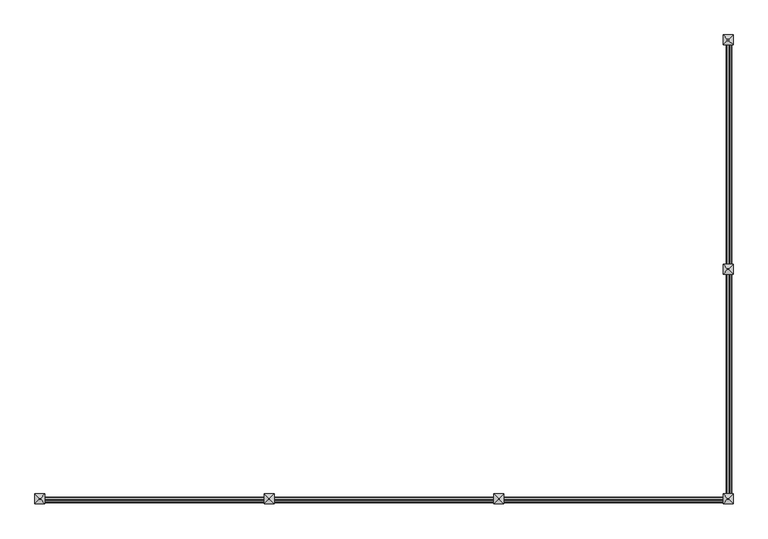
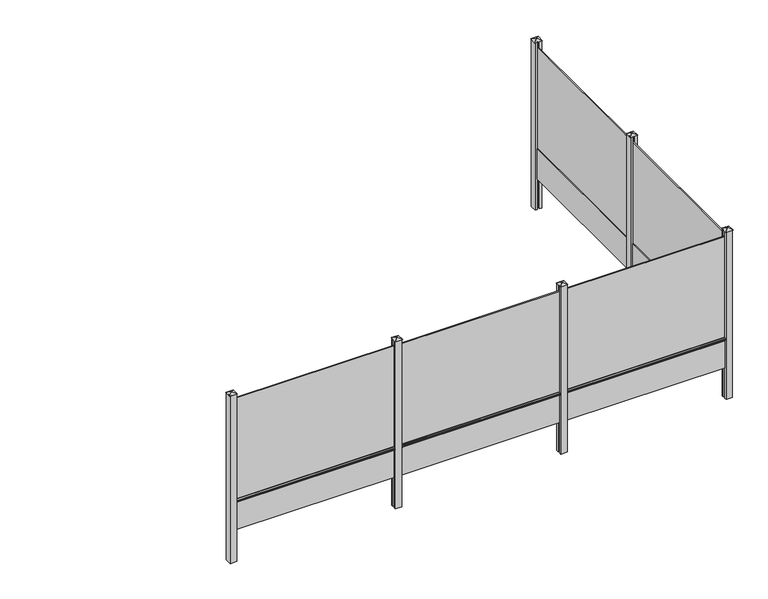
"""IFC4 building model written with IfcOpenShell, lengths in millimetres: railing geometry, Mehat - Railing - Plaque de Soubassement - Classique pour clôture rigide - 251.5x50x3.5 cm."""

from ifc_helpers import new_model, si_unit, point, frame, frame_2d, origin, origin_with_axes, place, context, project, spatial, polyline, circle_curve, trimmed, segment, composite_curve, outline, extrude, faceted_brep, source, transform, mapped, element, save


def railing_9e67e6d5(model_context):
    return source(origin(), model_context, "Body", "SolidModel", [
        extrude(outline(polyline([(11896.2516516, -11112.4943936), (11879.2516516, -11112.4943936), (11879.2516516, -8597.4943936), (11896.2516516, -8597.4943936), (11896.2516516, -11112.4943936)])), frame((0.0, 0.0, 500.0), z_axis=(0.0, 0.0, 1.0), x_axis=(1.0, 0.0, 0.0)), (0.0, 0.0, 1.0), 1650.0),
        extrude(outline(polyline([(11905.2516516, -11112.4943936), (11870.2516516, -11112.4943936), (11870.2516516, -8597.4943936), (11905.2516516, -8597.4943936), (11905.2516516, -11112.4943936)])), origin_with_axes(), (0.0, 0.0, 1.0), 500.0),
        extrude(outline(composite_curve([segment(polyline([(460.0, 11905.2516516), (467.1937129, 11926.8327905)]), True, "CONTINUOUS"), segment(trimmed(circle_curve(frame_2d((471.9371294, 11925.2516516)), 5.0), [point((467.1937129, 11926.8327905))], [point((471.9371294, 11930.2516516))], False, "CARTESIAN"), True, "CONTINUOUS"), segment(polyline([(471.9371294, 11930.2516516), (488.0628706, 11930.2516516)]), True, "CONTINUOUS"), segment(trimmed(circle_curve(frame_2d((488.0628706, 11925.2516516)), 5.0), [point((488.0628706, 11930.2516516))], [point((492.8062871, 11926.8327905))], False, "CARTESIAN"), True, "CONTINUOUS"), segment(polyline([(492.8062871, 11926.8327905), (500.0, 11905.2516516), (460.0, 11905.2516516)]), True, "CONTINUOUS")], self_intersect=False)), frame((0.0, -11087.4943936, 0.0), z_axis=(0.0, 1.0, 0.0), x_axis=(0.0, 0.0, 1.0)), (0.0, 0.0, 1.0), 2465.0),
        extrude(outline(polyline([(11937.7516516, -11187.4943936), (11905.2516516, -11187.4943936), (11905.2516516, -11162.4943936), (11870.2516516, -11162.4943936), (11870.2516516, -11187.4943936), (11837.7516516, -11187.4943936), (11837.7516516, -11087.4943936), (11870.2516516, -11087.4943936), (11870.2516516, -11112.4943936), (11905.2516516, -11112.4943936), (11905.2516516, -11087.4943936), (11937.7516516, -11087.4943936), (11937.7516516, -11187.4943936)])), frame((0.0, 0.0, -500.0), z_axis=(0.0, 0.0, 1.0), x_axis=(1.0, 0.0, 0.0)), (0.0, 0.0, 1.0), 2750.0),
        faceted_brep([(11881.3471055, -11131.1443936, 2275.4), (11881.3471055, -11143.8443936, 2275.4), (11894.0471055, -11143.8443936, 2275.4), (11894.0471055, -11131.1443936, 2275.4), (11831.4016516, -11081.1443936, 2250.0), (11944.1016516, -11081.1443936, 2250.0), (11944.1016516, -11193.8443936, 2250.0), (11831.4016516, -11193.8443936, 2250.0)], [[[0, 1, 2, 3]], [[4, 5, 6, 7]], [[4, 0, 3, 5]], [[5, 3, 2, 6]], [[6, 2, 1, 7]], [[7, 1, 0, 4]]]),
        extrude(outline(polyline([(11896.2516516, -13677.4943936), (11879.2516516, -13677.4943936), (11879.2516516, -11162.4943936), (11896.2516516, -11162.4943936), (11896.2516516, -13677.4943936)])), frame((0.0, 0.0, 500.0), z_axis=(0.0, 0.0, 1.0), x_axis=(1.0, 0.0, 0.0)), (0.0, 0.0, 1.0), 1650.0),
        extrude(outline(polyline([(11905.2516516, -13677.4943936), (11870.2516516, -13677.4943936), (11870.2516516, -11162.4943936), (11905.2516516, -11162.4943936), (11905.2516516, -13677.4943936)])), origin_with_axes(), (0.0, 0.0, 1.0), 500.0),
        extrude(outline(composite_curve([segment(polyline([(460.0, 11905.2516516), (467.1937129, 11926.8327905)]), True, "CONTINUOUS"), segment(trimmed(circle_curve(frame_2d((471.9371294, 11925.2516516)), 5.0), [point((467.1937129, 11926.8327905))], [point((471.9371294, 11930.2516516))], False, "CARTESIAN"), True, "CONTINUOUS"), segment(polyline([(471.9371294, 11930.2516516), (488.0628706, 11930.2516516)]), True, "CONTINUOUS"), segment(trimmed(circle_curve(frame_2d((488.0628706, 11925.2516516)), 5.0), [point((488.0628706, 11930.2516516))], [point((492.8062871, 11926.8327905))], False, "CARTESIAN"), True, "CONTINUOUS"), segment(polyline([(492.8062871, 11926.8327905), (500.0, 11905.2516516), (460.0, 11905.2516516)]), True, "CONTINUOUS")], self_intersect=False)), frame((0.0, -13652.4943936, 0.0), z_axis=(0.0, 1.0, 0.0), x_axis=(0.0, 0.0, 1.0)), (0.0, 0.0, 1.0), 2465.0),
        extrude(outline(polyline([(9347.7516516, -13710.9943936), (9347.7516516, -13693.9943936), (11862.7516516, -13693.9943936), (11862.7516516, -13710.9943936), (9347.7516516, -13710.9943936)])), frame((0.0, 0.0, 500.0), z_axis=(0.0, 0.0, 1.0), x_axis=(1.0, 0.0, 0.0)), (0.0, 0.0, 1.0), 1650.0),
        extrude(outline(polyline([(9347.7516516, -13719.9943936), (9347.7516516, -13684.9943936), (11862.7516516, -13684.9943936), (11862.7516516, -13719.9943936), (9347.7516516, -13719.9943936)])), origin_with_axes(), (0.0, 0.0, 1.0), 500.0),
        extrude(outline(composite_curve([segment(polyline([(-13719.9943936, 460.0), (-13741.5755325, 467.1937129)]), True, "CONTINUOUS"), segment(trimmed(circle_curve(frame_2d((-13739.9943936, 471.9371294)), 5.0), [point((-13741.5755325, 467.1937129))], [point((-13744.9943936, 471.9371294))], False, "CARTESIAN"), True, "CONTINUOUS"), segment(polyline([(-13744.9943936, 471.9371294), (-13744.9943936, 488.0628706)]), True, "CONTINUOUS"), segment(trimmed(circle_curve(frame_2d((-13739.9943936, 488.0628706)), 5.0), [point((-13744.9943936, 488.0628706))], [point((-13741.5755325, 492.8062871))], False, "CARTESIAN"), True, "CONTINUOUS"), segment(polyline([(-13741.5755325, 492.8062871), (-13719.9943936, 500.0), (-13719.9943936, 460.0)]), True, "CONTINUOUS")], self_intersect=False)), frame((9372.7516516, 0.0, 0.0), z_axis=(1.0, 0.0, 0.0), x_axis=(0.0, 1.0, 0.0)), (0.0, 0.0, 1.0), 2465.0),
        extrude(outline(polyline([(9272.7516516, -13752.4943936), (9272.7516516, -13719.9943936), (9297.7516516, -13719.9943936), (9297.7516516, -13684.9943936), (9272.7516516, -13684.9943936), (9272.7516516, -13652.4943936), (9372.7516516, -13652.4943936), (9372.7516516, -13684.9943936), (9347.7516516, -13684.9943936), (9347.7516516, -13719.9943936), (9372.7516516, -13719.9943936), (9372.7516516, -13752.4943936), (9272.7516516, -13752.4943936)])), frame((0.0, 0.0, -500.0), z_axis=(0.0, 0.0, 1.0), x_axis=(1.0, 0.0, 0.0)), (0.0, 0.0, 1.0), 2750.0),
        faceted_brep([(9329.1016516, -13696.0898475, 2275.4), (9316.4016516, -13696.0898475, 2275.4), (9316.4016516, -13708.7898475, 2275.4), (9329.1016516, -13708.7898475, 2275.4), (9379.1016516, -13646.1443936, 2250.0), (9379.1016516, -13758.8443936, 2250.0), (9266.4016516, -13758.8443936, 2250.0), (9266.4016516, -13646.1443936, 2250.0)], [[[0, 1, 2, 3]], [[4, 5, 6, 7]], [[4, 0, 3, 5]], [[5, 3, 2, 6]], [[6, 2, 1, 7]], [[7, 1, 0, 4]]]),
        extrude(outline(polyline([(6782.7516516, -13710.9943936), (6782.7516516, -13693.9943936), (9297.7516516, -13693.9943936), (9297.7516516, -13710.9943936), (6782.7516516, -13710.9943936)])), frame((0.0, 0.0, 500.0), z_axis=(0.0, 0.0, 1.0), x_axis=(1.0, 0.0, 0.0)), (0.0, 0.0, 1.0), 1650.0),
        extrude(outline(polyline([(6782.7516516, -13719.9943936), (6782.7516516, -13684.9943936), (9297.7516516, -13684.9943936), (9297.7516516, -13719.9943936), (6782.7516516, -13719.9943936)])), origin_with_axes(), (0.0, 0.0, 1.0), 500.0),
        extrude(outline(composite_curve([segment(polyline([(-13719.9943936, 460.0), (-13741.5755325, 467.1937129)]), True, "CONTINUOUS"), segment(trimmed(circle_curve(frame_2d((-13739.9943936, 471.9371294)), 5.0), [point((-13741.5755325, 467.1937129))], [point((-13744.9943936, 471.9371294))], False, "CARTESIAN"), True, "CONTINUOUS"), segment(polyline([(-13744.9943936, 471.9371294), (-13744.9943936, 488.0628706)]), True, "CONTINUOUS"), segment(trimmed(circle_curve(frame_2d((-13739.9943936, 488.0628706)), 5.0), [point((-13744.9943936, 488.0628706))], [point((-13741.5755325, 492.8062871))], False, "CARTESIAN"), True, "CONTINUOUS"), segment(polyline([(-13741.5755325, 492.8062871), (-13719.9943936, 500.0), (-13719.9943936, 460.0)]), True, "CONTINUOUS")], self_intersect=False)), frame((6807.7516516, 0.0, 0.0), z_axis=(1.0, 0.0, 0.0), x_axis=(0.0, 1.0, 0.0)), (0.0, 0.0, 1.0), 2465.0),
        extrude(outline(polyline([(6707.7516516, -13752.4943936), (6707.7516516, -13719.9943936), (6732.7516516, -13719.9943936), (6732.7516516, -13684.9943936), (6707.7516516, -13684.9943936), (6707.7516516, -13652.4943936), (6807.7516516, -13652.4943936), (6807.7516516, -13684.9943936), (6782.7516516, -13684.9943936), (6782.7516516, -13719.9943936), (6807.7516516, -13719.9943936), (6807.7516516, -13752.4943936), (6707.7516516, -13752.4943936)])), frame((0.0, 0.0, -500.0), z_axis=(0.0, 0.0, 1.0), x_axis=(1.0, 0.0, 0.0)), (0.0, 0.0, 1.0), 2750.0),
        faceted_brep([(6764.1016516, -13696.0898475, 2275.4), (6751.4016516, -13696.0898475, 2275.4), (6751.4016516, -13708.7898475, 2275.4), (6764.1016516, -13708.7898475, 2275.4), (6814.1016516, -13646.1443936, 2250.0), (6814.1016516, -13758.8443936, 2250.0), (6701.4016516, -13758.8443936, 2250.0), (6701.4016516, -13646.1443936, 2250.0)], [[[0, 1, 2, 3]], [[4, 5, 6, 7]], [[4, 0, 3, 5]], [[5, 3, 2, 6]], [[6, 2, 1, 7]], [[7, 1, 0, 4]]]),
        extrude(outline(polyline([(4217.7516516, -13710.9943936), (4217.7516516, -13693.9943936), (6732.7516516, -13693.9943936), (6732.7516516, -13710.9943936), (4217.7516516, -13710.9943936)])), frame((0.0, 0.0, 500.0), z_axis=(0.0, 0.0, 1.0), x_axis=(1.0, 0.0, 0.0)), (0.0, 0.0, 1.0), 1650.0),
        extrude(outline(polyline([(4217.7516516, -13719.9943936), (4217.7516516, -13684.9943936), (6732.7516516, -13684.9943936), (6732.7516516, -13719.9943936), (4217.7516516, -13719.9943936)])), origin_with_axes(), (0.0, 0.0, 1.0), 500.0),
        extrude(outline(composite_curve([segment(polyline([(-13719.9943936, 460.0), (-13741.5755325, 467.1937129)]), True, "CONTINUOUS"), segment(trimmed(circle_curve(frame_2d((-13739.9943936, 471.9371294)), 5.0), [point((-13741.5755325, 467.1937129))], [point((-13744.9943936, 471.9371294))], False, "CARTESIAN"), True, "CONTINUOUS"), segment(polyline([(-13744.9943936, 471.9371294), (-13744.9943936, 488.0628706)]), True, "CONTINUOUS"), segment(trimmed(circle_curve(frame_2d((-13739.9943936, 488.0628706)), 5.0), [point((-13744.9943936, 488.0628706))], [point((-13741.5755325, 492.8062871))], False, "CARTESIAN"), True, "CONTINUOUS"), segment(polyline([(-13741.5755325, 492.8062871), (-13719.9943936, 500.0), (-13719.9943936, 460.0)]), True, "CONTINUOUS")], self_intersect=False)), frame((4242.7516516, 0.0, 0.0), z_axis=(1.0, 0.0, 0.0), x_axis=(0.0, 1.0, 0.0)), (0.0, 0.0, 1.0), 2465.0),
        extrude(outline(polyline([(11837.7516516, -13752.4943936), (11837.7516516, -13719.9943936), (11862.7516516, -13719.9943936), (11862.7516516, -13684.9943936), (11837.7516516, -13684.9943936), (11837.7516516, -13652.4943936), (11870.2516516, -13652.4943936), (11870.2516516, -13677.4943936), (11905.2516516, -13677.4943936), (11905.2516516, -13652.4943936), (11937.7516516, -13652.4943936), (11937.7516516, -13752.4943936), (11837.7516516, -13752.4943936)])), frame((0.0, 0.0, -500.0), z_axis=(0.0, 0.0, 1.0), x_axis=(1.0, 0.0, 0.0)), (0.0, 0.0, 1.0), 2750.0),
        faceted_brep([(11894.1016516, -13696.0898475, 2275.4), (11881.4016516, -13696.0898475, 2275.4), (11881.4016516, -13708.7898475, 2275.4), (11894.1016516, -13708.7898475, 2275.4), (11944.1016516, -13646.1443936, 2250.0), (11944.1016516, -13758.8443936, 2250.0), (11831.4016516, -13758.8443936, 2250.0), (11831.4016516, -13646.1443936, 2250.0)], [[[0, 1, 2, 3]], [[4, 5, 6, 7]], [[4, 0, 3, 5]], [[5, 3, 2, 6]], [[6, 2, 1, 7]], [[7, 1, 0, 4]]]),
        extrude(outline(polyline([(11937.7516516, -8622.4943936), (11905.2516516, -8622.4943936), (11905.2516516, -8597.4943936), (11870.2516516, -8597.4943936), (11870.2516516, -8622.4943936), (11837.7516516, -8622.4943936), (11837.7516516, -8522.4943936), (11937.7516516, -8522.4943936), (11937.7516516, -8622.4943936)])), frame((0.0, 0.0, -500.0), z_axis=(0.0, 0.0, 1.0), x_axis=(1.0, 0.0, 0.0)), (0.0, 0.0, 1.0), 2750.0),
        faceted_brep([(11881.3471055, -8566.1443936, 2275.4), (11881.3471055, -8578.8443936, 2275.4), (11894.0471055, -8578.8443936, 2275.4), (11894.0471055, -8566.1443936, 2275.4), (11831.4016516, -8516.1443936, 2250.0), (11944.1016516, -8516.1443936, 2250.0), (11944.1016516, -8628.8443936, 2250.0), (11831.4016516, -8628.8443936, 2250.0)], [[[0, 1, 2, 3]], [[4, 5, 6, 7]], [[4, 0, 3, 5]], [[5, 3, 2, 6]], [[6, 2, 1, 7]], [[7, 1, 0, 4]]]),
        extrude(outline(polyline([(4142.7516516, -13752.4943936), (4142.7516516, -13652.4943936), (4242.7516516, -13652.4943936), (4242.7516516, -13684.9943936), (4217.7516516, -13684.9943936), (4217.7516516, -13719.9943936), (4242.7516516, -13719.9943936), (4242.7516516, -13752.4943936), (4142.7516516, -13752.4943936)])), frame((0.0, 0.0, -500.0), z_axis=(0.0, 0.0, 1.0), x_axis=(1.0, 0.0, 0.0)), (0.0, 0.0, 1.0), 2750.0),
        faceted_brep([(4199.1016516, -13696.0898475, 2275.4), (4186.4016516, -13696.0898475, 2275.4), (4186.4016516, -13708.7898475, 2275.4), (4199.1016516, -13708.7898475, 2275.4), (4249.1016516, -13646.1443936, 2250.0), (4249.1016516, -13758.8443936, 2250.0), (4136.4016516, -13758.8443936, 2250.0), (4136.4016516, -13646.1443936, 2250.0)], [[[0, 1, 2, 3]], [[4, 5, 6, 7]], [[4, 0, 3, 5]], [[5, 3, 2, 6]], [[6, 2, 1, 7]], [[7, 1, 0, 4]]]),
    ])


if __name__ == "__main__":
    model = new_model("IFC4")
    model_context = context("Model", 3, world=origin())
    ifc_project = project(units=[si_unit("LENGTHUNIT", "METRE", prefix="MILLI")], contexts=[model_context])
    site = spatial("IfcSite", under=ifc_project)
    building = spatial("IfcBuilding", under=site)
    placement = place(None, origin())
    railing_shape = railing_9e67e6d5(model_context)
    element("IfcRailing", 1, ObjectType="Mehat - Railing - Plaque de Soubassement - Classique pour clôture rigide - 251.5x50x3.5 cm", at=placement, inside=building, context=model_context, shape_type="MappedRepresentation", body=[
        mapped(railing_shape, transform((0.0, 0.0, 0.0), x_axis=(1.0, 0.0, 0.0), y_axis=(0.0, 1.0, 0.0), z_axis=(0.0, 0.0, 1.0))),
    ])
    save(model, "model.ifc")
